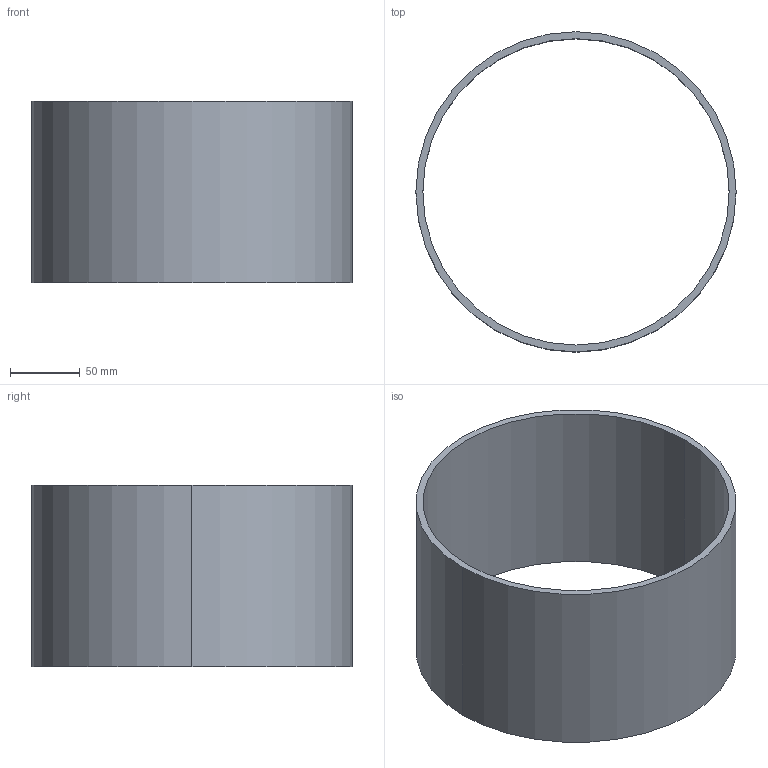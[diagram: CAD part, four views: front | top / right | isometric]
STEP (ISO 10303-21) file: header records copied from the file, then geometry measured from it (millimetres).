
FILE_DESCRIPTION(('CATIA V5 STEP Exchange'),'2;1');
FILE_NAME('C:\_Andres\UNIVERSIDAD\IQS\ASIGNATURAS\DAO\EXF\EXF-15161c\1original\Massaneda_Tuneu_Ej07-tabla_v15.stp','2016-03-04T21:16:34+00:00',('none'),('none'),'CATIA Version 5 Release 20 SP 1 (IN-10)','CATIA V5 STEP AP203','none');
FILE_SCHEMA(('CONFIG_CONTROL_DESIGN'));
Length unit declared in the file: millimetre
Products named in the file (1): Massaneda_Tuneu_Ej07-tabla_v15
Bounding box: 230 x 230 x 130 mm (x, y, z)
Volume: 459457.9 mm3; surface area: 190851.8 mm2
Topology: 1 solids, 1 shells, 6 faces, 13 edges, 10 vertices
Faces by surface type: cylinder 4, plane 2
Entity records: 208 total; most frequent: CARTESIAN_POINT 29, ORIENTED_EDGE 24, DIRECTION 23, AXIS2_PLACEMENT_3D 14, EDGE_CURVE 12, CIRCLE 8, EDGE_LOOP 8, VERTEX_POINT 8
